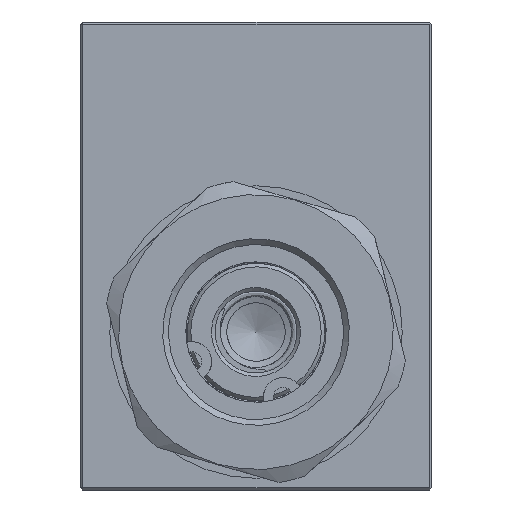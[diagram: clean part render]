
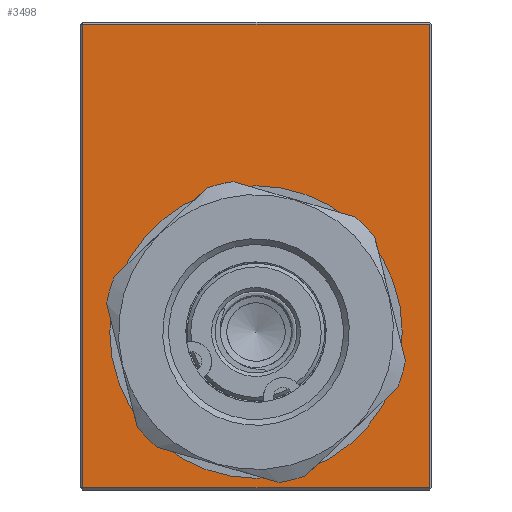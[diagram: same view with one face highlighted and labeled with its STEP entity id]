
A CAD part, left-side view. The second image highlights one B-rep face of the part: STEP entity #3498.
In plain terms, the highlighted planar face has unit normal (-1, 0, 0).
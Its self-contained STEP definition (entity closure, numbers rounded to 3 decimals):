
#165=LINE('',#13473,#289);
#167=LINE('',#13477,#291);
#169=LINE('',#13481,#293);
#170=LINE('',#13483,#294);
#289=VECTOR('',#6128,1000.);
#291=VECTOR('',#6132,1000.);
#293=VECTOR('',#6136,1000.);
#294=VECTOR('',#6139,1000.);
#436=CIRCLE('',#5502,12.488);
#710=PLANE('',#5501);
#961=ORIENTED_EDGE('',*,*,#1839,.T.);
#962=ORIENTED_EDGE('',*,*,#1838,.T.);
#963=ORIENTED_EDGE('',*,*,#1836,.T.);
#964=ORIENTED_EDGE('',*,*,#1834,.T.);
#965=ORIENTED_EDGE('',*,*,#1840,.F.);
#1834=EDGE_CURVE('',#2285,#2284,#165,.T.);
#1836=EDGE_CURVE('',#2286,#2285,#167,.T.);
#1838=EDGE_CURVE('',#2283,#2286,#169,.T.);
#1839=EDGE_CURVE('',#2284,#2283,#170,.T.);
#1840=EDGE_CURVE('',#2287,#2287,#436,.F.);
#2283=VERTEX_POINT('',#13463);
#2284=VERTEX_POINT('',#13470);
#2285=VERTEX_POINT('',#13474);
#2286=VERTEX_POINT('',#13478);
#2287=VERTEX_POINT('',#13486);
#2709=EDGE_LOOP('',(#961,#962,#963,#964));
#2710=EDGE_LOOP('',(#965));
#3108=FACE_BOUND('',#2709,.T.);
#3109=FACE_BOUND('',#2710,.T.);
#3498=ADVANCED_FACE('',(#3108,#3109),#710,.F.);
#5501=AXIS2_PLACEMENT_3D('',#13484,#6140,#6141);
#5502=AXIS2_PLACEMENT_3D('',#13485,#6142,#6143);
#6128=DIRECTION('',(0.,1.,0.));
#6132=DIRECTION('',(0.,0.,1.));
#6136=DIRECTION('',(0.,-1.,0.));
#6139=DIRECTION('',(0.,0.,-1.));
#6140=DIRECTION('',(1.,0.,0.));
#6141=DIRECTION('',(0.,0.,-1.));
#6142=DIRECTION('',(1.,0.,0.));
#6143=DIRECTION('',(0.,0.,-1.));
#13463=CARTESIAN_POINT('',(-33.966,14.785,-19.782));
#13470=CARTESIAN_POINT('',(-33.966,14.785,19.778));
#13473=CARTESIAN_POINT('',(-33.966,-14.985,19.778));
#13474=CARTESIAN_POINT('',(-33.966,-14.785,19.778));
#13477=CARTESIAN_POINT('',(-33.966,-14.785,19.978));
#13478=CARTESIAN_POINT('',(-33.966,-14.785,-19.782));
#13481=CARTESIAN_POINT('',(-33.966,-14.985,-19.782));
#13483=CARTESIAN_POINT('',(-33.966,14.785,19.978));
#13484=CARTESIAN_POINT('',(-33.966,-14.985,19.978));
#13485=CARTESIAN_POINT('',(-33.966,0.,-6.495));
#13486=CARTESIAN_POINT('',(-33.966,0.,-18.983));
